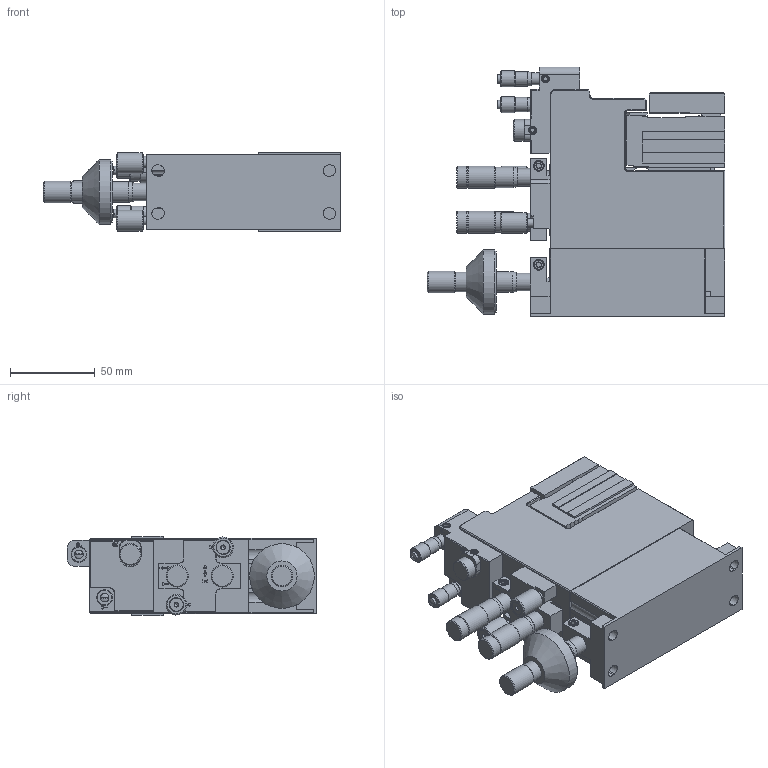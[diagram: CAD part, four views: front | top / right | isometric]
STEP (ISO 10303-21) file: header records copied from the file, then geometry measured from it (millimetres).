
FILE_DESCRIPTION((''),'1');
FILE_NAME('P1-L-H-I','2021-03-26T13:45:05',('JD'),('Luminos'),'Spatial Interop R20 SP1','Kubotek KeyCreator V9.0.3 (16864)',' ');
FILE_SCHEMA(('automotive_design'));
Length unit declared in the file: inch
Products named in the file (2): 1; 2
Bounding box: 175.18 x 147.07 x 46.99 mm (x, y, z)
Volume: 661520.7 mm3; surface area: 92184.5 mm2
Topology: 2 solids, 3 shells, 910 faces, 2120 edges, 1318 vertices
Faces by surface type: plane 547, cone 189, cylinder 170, sphere 4
Full cylindrical faces by diameter (mm): 2.261 x25, 4.039 x3, 4.648 x8, 4.762 x6, 4.775 x2, 4.826 x2, 5 x3, 5.08 x2, 5.74 x4, 6.35 x3, 7.01 x2, 7.144 x1, 8.509 x2, 9.322 x2, 9.5 x2, 9.525 x1, 10.49 x3, 11.684 x1, 12.116 x3, 12.192 x2, 12.7 x2, 13.081 x4, 38.1 x1
Entity records: 44533 total; most frequent: CARTESIAN_POINT 4280, DIRECTION 4169, ORIENTED_EDGE 3796, PRESENTATION_STYLE_ASSIGNMENT 3722, COLOUR_RGB 3722, STYLED_ITEM 2810, CURVE_STYLE 2810, DRAUGHTING_PRE_DEFINED_CURVE_FONT 2810
